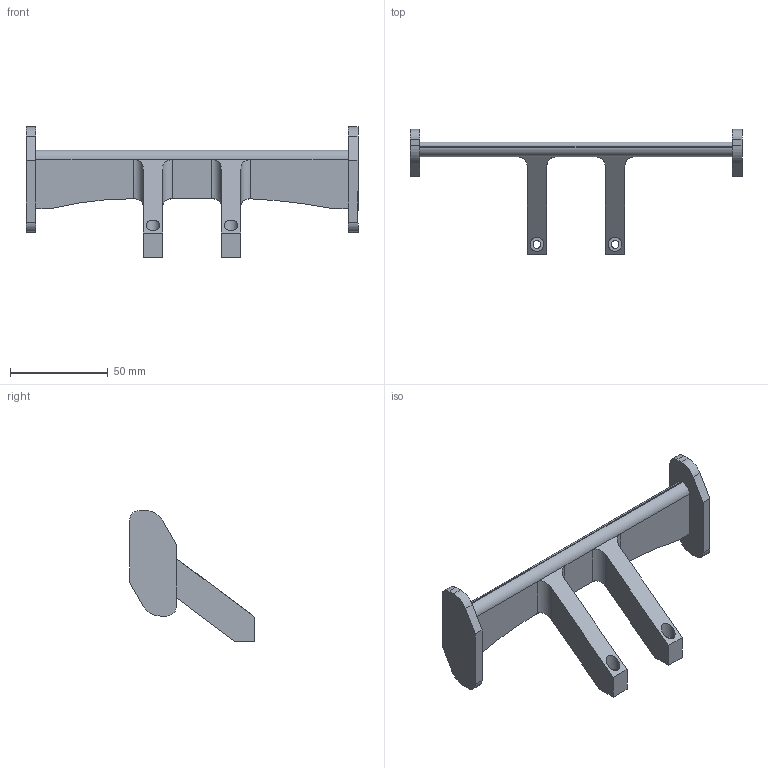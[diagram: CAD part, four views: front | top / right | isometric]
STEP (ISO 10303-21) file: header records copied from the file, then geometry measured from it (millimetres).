
FILE_DESCRIPTION (( 'STEP AP203' ), '1' );
FILE_NAME ('Spoiler.STEP', '2026-01-17T21:10:58', ( '' ), ( '' ), 'SwSTEP 2.0', 'SolidWorks 2026', '' );
FILE_SCHEMA (( 'CONFIG_CONTROL_DESIGN' ));
Length unit declared in the file: millimetre
Products named in the file (1): Spoiler
Bounding box: 170 x 64 x 67 mm (x, y, z)
Volume: 51731.6 mm3; surface area: 21729.5 mm2
Topology: 1 solids, 1 shells, 65 faces, 167 edges, 108 vertices
Faces by surface type: plane 36, cylinder 26, torus 3
Entity records: 2097 total; most frequent: CARTESIAN_POINT 435, ORIENTED_EDGE 334, DIRECTION 326, EDGE_CURVE 167, AXIS2_PLACEMENT_3D 109, VERTEX_POINT 108, VECTOR 108, LINE 108
